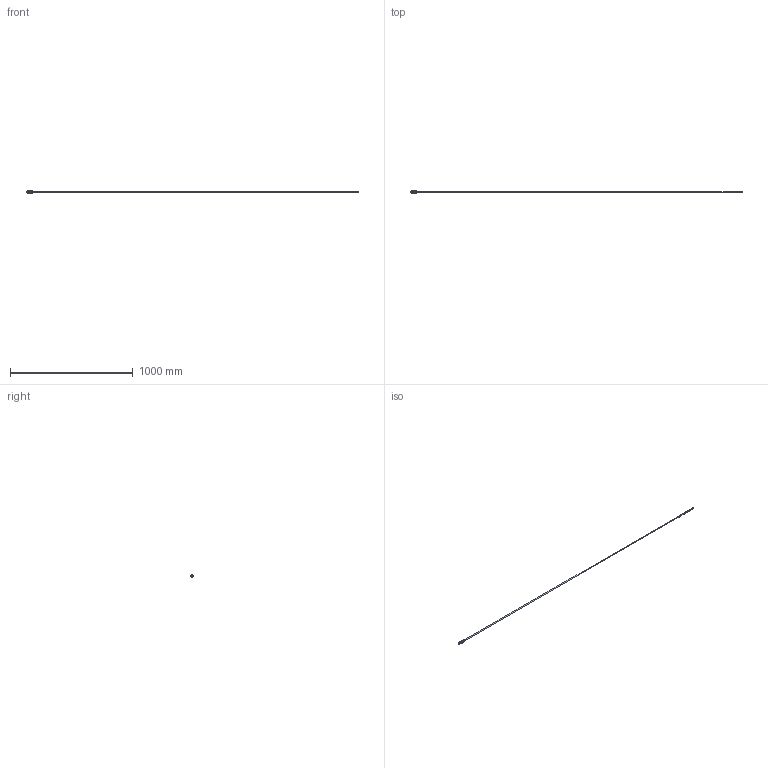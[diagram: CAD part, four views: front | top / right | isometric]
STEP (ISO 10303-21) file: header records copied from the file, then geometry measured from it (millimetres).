
FILE_DESCRIPTION (( 'STEP AP203' ), '1' );
FILE_NAME ('Model C - Assemblage.STEP', '2021-08-09T15:12:59', ( '' ), ( '' ), 'SwSTEP 2.0', 'SolidWorks 2016', '' );
FILE_SCHEMA (( 'CONFIG_CONTROL_DESIGN' ));
Length unit declared in the file: millimetre
Products named in the file (4): Model C; Model C - Assemblage; fgg_3b_809_clad823; emile_maurin_622082X6
Assembly tree (3 placements, depth 2):
  Model C - Assemblage
    fgg_3b_809_clad823
    Model C
    emile_maurin_622082X6
Bounding box: 2700.5 x 17.97 x 18 mm (x, y, z)
Volume: 133868.5 mm3; surface area: 68146.7 mm2
Topology: 3 solids, 3 shells, 509 faces, 1380 edges, 887 vertices
Faces by surface type: plane 291, cylinder 137, cone 63, bspline 12, torus 6
Full cylindrical faces by diameter (mm): 2.5 x1, 7.644 x1, 14.25 x1, 15 x2, 16.5 x2
Entity records: 17572 total; most frequent: CARTESIAN_POINT 5157, ORIENTED_EDGE 2704, DIRECTION 2258, EDGE_CURVE 1352, AXIS2_PLACEMENT_3D 885, VERTEX_POINT 882, EDGE_LOOP 542, FACE_OUTER_BOUND 520
